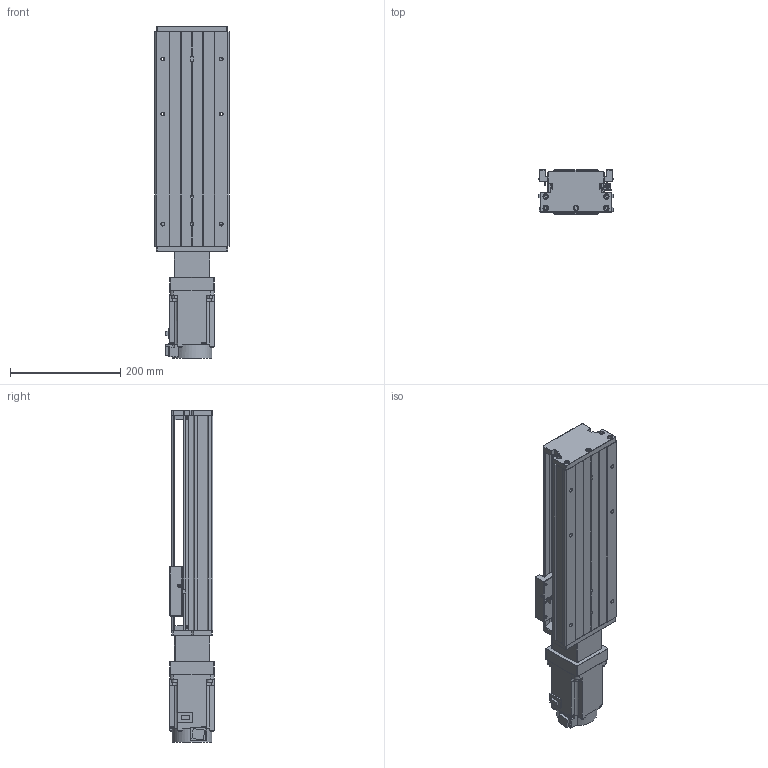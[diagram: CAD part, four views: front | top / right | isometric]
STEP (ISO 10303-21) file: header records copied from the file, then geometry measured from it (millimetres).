
FILE_DESCRIPTION (( 'STEP AP203' ), '1' );
FILE_NAME ('KTH130-250-BC-M75-C4.step', '2023-06-30T04:16:56', ( '微软用户' ), ( '微软中国' ), 'SwSTEP 2.0', 'SolidWorks 2020', '' );
FILE_SCHEMA (( 'CONFIG_CONTROL_DESIGN' ));
Length unit declared in the file: millimetre
Products named in the file (19): KTH130-004; CTHA60-016; CTHA86-027-1; KTH130-005; GBT 70.1-M3℅5; hg-kn73j_-s100; GB1155-6X6; GBT77-2000 M3×3; KTH130-250-BC-M75-C4; GBT70.1 M5℅16; す晦芛蹟隊 M3℅5; GBT 70.2-M3¡Á5_M3¡Á6; GBT 70.3-M3℅8; GTH14-001_250; CTHA60-017; CTHA86-006-1_M75; KTH130-002_KTH130-002; EE_SX911P_R; CTHA86-013
Assembly tree (52 placements, depth 2):
  KTH130-250-BC-M75-C4
    GTH14-001_250
    KTH130-002_KTH130-002
    KTH130-004
    KTH130-005
    GB1155-6X6  x2
    GBT70.1 M5℅16  x10
    GBT 70.2-M3¡Á5_M3¡Á6  x4
    CTHA60-017  x3
    EE_SX911P_R  x3
    CTHA60-016  x2
    GBT 70.1-M3℅5  x6
    GBT77-2000 M3×3  x6
    す晦芛蹟隊 M3℅5  x2
    GBT 70.3-M3℅8  x6
    CTHA86-006-1_M75
    CTHA86-013
    CTHA86-027-1
    hg-kn73j_-s100
Bounding box: 135 x 80.44 x 603.2 mm (x, y, z)
Volume: 3369495 mm3; surface area: 506203.3 mm2
Topology: 55 solids, 55 shells, 2240 faces, 5384 edges, 3351 vertices
Faces by surface type: plane 1238, cylinder 606, cone 280, torus 104, sphere 12
Entity records: 39538 total; most frequent: CARTESIAN_POINT 6531, DIRECTION 6491, ORIENTED_EDGE 6052, EDGE_CURVE 3026, AXIS2_PLACEMENT_3D 2247, VECTOR 1997, LINE 1997, VERTEX_POINT 1923
